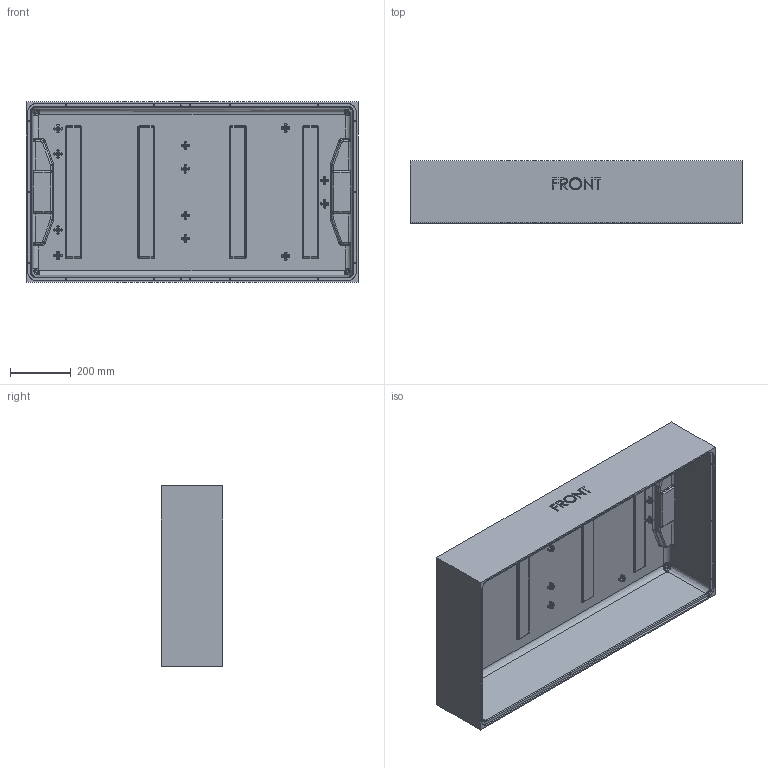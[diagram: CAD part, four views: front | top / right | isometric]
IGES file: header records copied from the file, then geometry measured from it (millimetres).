
Start section: SolidWorks IGES file using analytic representation for surfaces
Global section: file name: C:\Documents and Settings\jgesicki\Desktop\1780\1780-CASE-TOP.IGS; native system: SolidWorks 2006 by SolidWorks Corporation; preprocessor: SolidWorks 2006 by SolidWorks Corporation; author: jgesicki; date: 070228.141923; units: inch
Bounding box: 1088.93 x 202.62 x 592.36 mm (x, y, z)
Surface area: 2580967.5 mm2 (no closed solid volume)
Topology: 0 solids, 0 shells, 1905 faces, 14949 edges, 14878 vertices
Faces by surface type: bspline 1057, revolution 848
